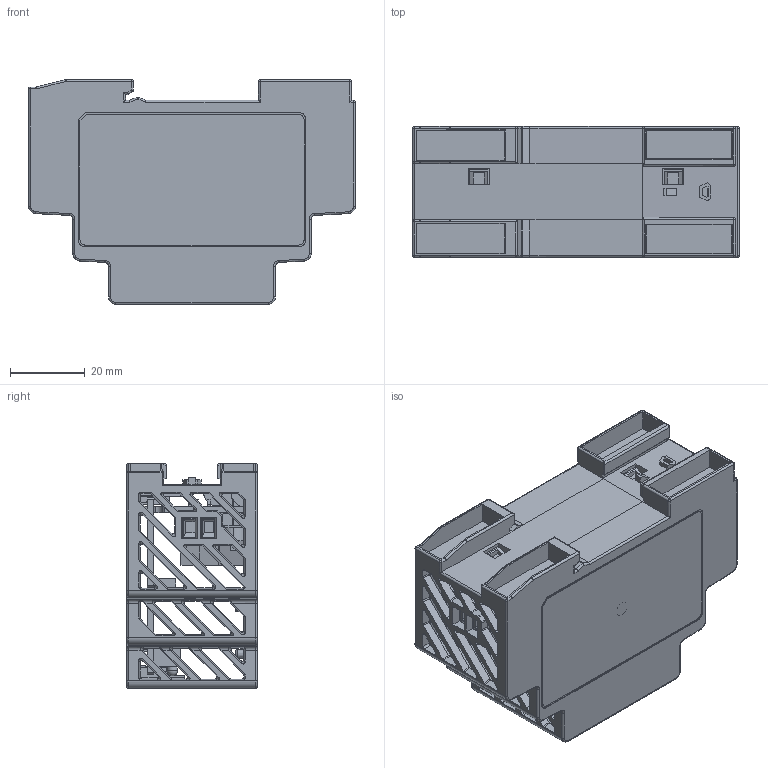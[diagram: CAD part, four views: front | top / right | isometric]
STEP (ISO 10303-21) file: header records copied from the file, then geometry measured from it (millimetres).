
FILE_DESCRIPTION((''),'2;1');
FILE_NAME('30W_ASM','2023-11-28T16:32:15',('ERIC.CC.YEH'),(''),'CREO PARAMETRIC BY PTC INC, 2020454','CREO PARAMETRIC BY PTC INC, 2020454','');
FILE_SCHEMA(('CONFIG_CONTROL_DESIGN','GEOMETRIC_VALIDATION_PROPERTIES_MIM'));
Products named in the file (27): 330V0033IP01; 330V0031IP01; BOARD; 2300320505-58983; 2300320505-58973_ASM; LED101_ASM; PCB_ASM; DRC-24V30W1RZR0C3-0830_ASM; BOARD_1; 1-8404; 2-9666; 3; MB310-100M02G__20220621_ASM_ASM; 307301127W_ASM; CN1_ASM; 2-22417; 1-24034; 307013257W_ASM; CN201_ASM; 0601001004; VR200_ASM; PCB_1_ASM; IPDC-2013R0C3-3D--0829_ASM; PWB_ASM; FRONT_LABEL; SPEC_LABEL; 30W_ASM
Assembly tree (28 placements, depth 8):
  30W_ASM
    330V0033IP01
    330V0031IP01
    PWB_ASM
      DRC-24V30W1RZR0C3-0830_ASM
        PCB_ASM
          BOARD
          LED101_ASM
            2300320505-58973_ASM
              2300320505-58983
      IPDC-2013R0C3-3D--0829_ASM
        PCB_1_ASM
          BOARD_1
          CN1_ASM
            307301127W_ASM
              MB310-100M02G__20220621_ASM_ASM
                1-8404
                2-9666
                3
          CN201_ASM
            307013257W_ASM
              2-22417  x2
              1-24034  x2
          VR200_ASM
            0601001004
    FRONT_LABEL
    SPEC_LABEL
Bounding box: 87.5 x 35 x 60.2 mm (x, y, z)
Volume: 43752.6 mm3; surface area: 60294.6 mm2
Topology: 15 solids, 15 shells, 1788 faces, 4946 edges, 3203 vertices
Faces by surface type: plane 982, cylinder 620, torus 72, bspline 54, cone 30, sphere 24, extrusion 6
Entity records: 75194 total; most frequent: CARTESIAN_POINT 16309, ORIENTED_EDGE 9568, DIRECTION 8309, EDGE_CURVE 4784, PRESENTATION_STYLE_ASSIGNMENT 4544, STYLED_ITEM 4513, CURVE_STYLE 4484, VECTOR 3201
